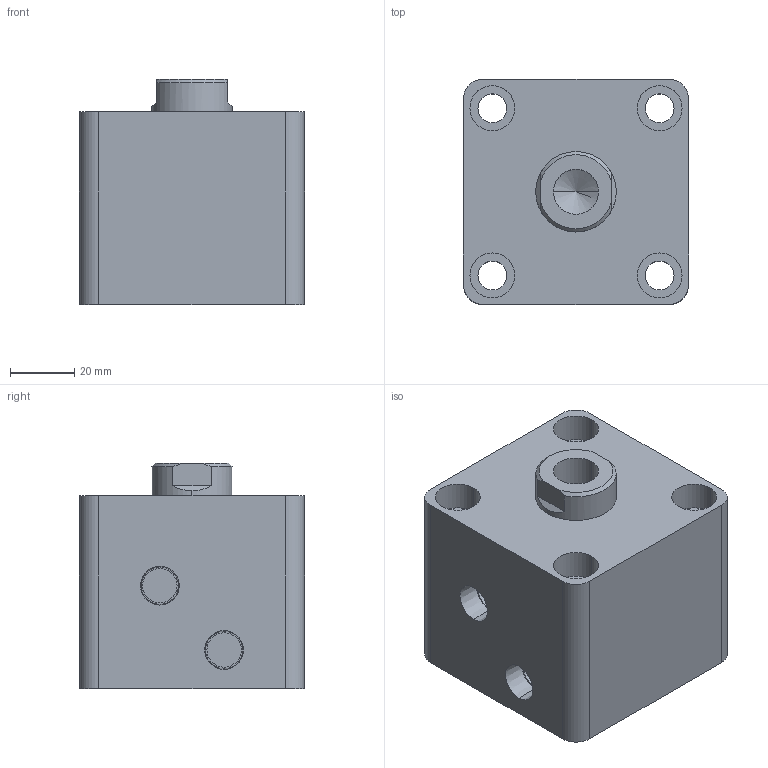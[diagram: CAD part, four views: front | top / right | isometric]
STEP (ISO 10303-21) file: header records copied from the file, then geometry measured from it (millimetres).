
FILE_DESCRIPTION (( 'STEP AP203' ), '1' );
FILE_NAME ('HTB-SD40-5N.STEP', '2019-10-07T06:42:41', ( '微软用户' ), ( '微软中国' ), 'SwSTEP 2.0', 'SolidWorks 2012', '' );
FILE_SCHEMA (( 'CONFIG_CONTROL_DESIGN' ));
Length unit declared in the file: millimetre
Products named in the file (3): HTB-SD40-5掛极; HTB-SD40-5N活塞杆; HTB-SD40-5N
Assembly tree (2 placements, depth 2):
  HTB-SD40-5N
    HTB-SD40-5掛极
    HTB-SD40-5N活塞杆
Bounding box: 70 x 70 x 70 mm (x, y, z)
Volume: 266003.5 mm3; surface area: 49415.3 mm2
Topology: 2 solids, 2 shells, 81 faces, 180 edges, 117 vertices
Faces by surface type: cylinder 42, plane 27, cone 8, torus 4
Entity records: 2603 total; most frequent: DIRECTION 444, CARTESIAN_POINT 409, ORIENTED_EDGE 356, AXIS2_PLACEMENT_3D 188, EDGE_CURVE 178, VERTEX_POINT 117, EDGE_LOOP 105, CIRCLE 102
